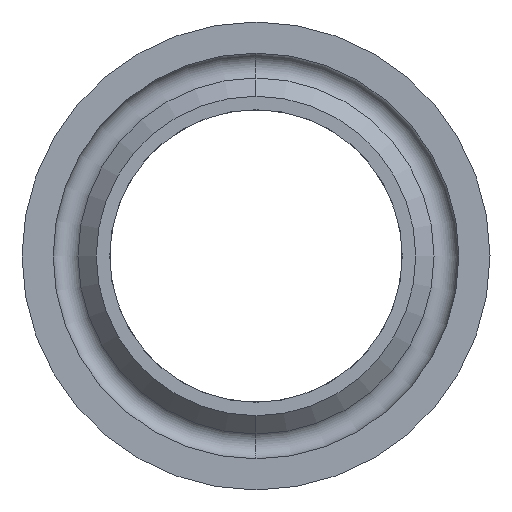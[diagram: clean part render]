
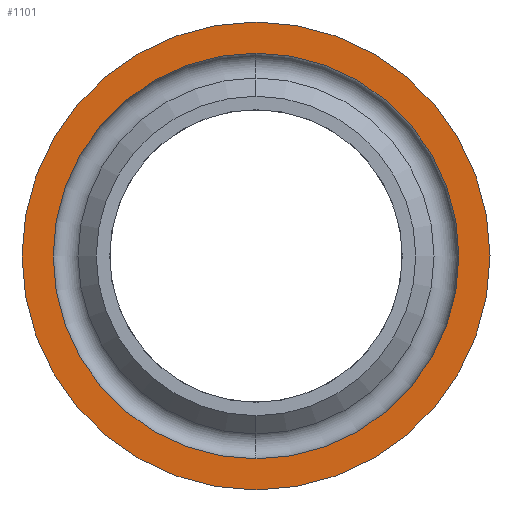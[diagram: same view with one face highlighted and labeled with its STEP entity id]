
A CAD part, front view. The second image highlights one B-rep face of the part: STEP entity #1101.
In plain terms, the highlighted planar face has unit normal (0, -1, 0).
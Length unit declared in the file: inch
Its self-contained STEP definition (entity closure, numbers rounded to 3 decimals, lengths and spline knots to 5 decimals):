
#86 = CIRCLE ( 'NONE', #96, 0.496 ) ;
#96 = AXIS2_PLACEMENT_3D ( 'NONE', #246, #1065, #355 ) ;
#121 = CARTESIAN_POINT ( 'NONE',  ( -0.496, 0., 0. ) ) ;
#140 = CIRCLE ( 'NONE', #939, 0.43 ) ;
#159 = CIRCLE ( 'NONE', #1169, 0.43 ) ;
#172 = FACE_BOUND ( 'NONE', #873, .T. ) ;
#185 = CARTESIAN_POINT ( 'NONE',  ( 0., 0., -0.496 ) ) ;
#246 = CARTESIAN_POINT ( 'NONE',  ( 0., 0., 0. ) ) ;
#247 = DIRECTION ( 'NONE',  ( 0., 1., 0. ) ) ;
#320 = DIRECTION ( 'NONE',  ( 0., -1., 0. ) ) ;
#355 = DIRECTION ( 'NONE',  ( 0., 0., -1. ) ) ;
#459 = FACE_OUTER_BOUND ( 'NONE', #1216, .T. ) ;
#511 = EDGE_CURVE ( 'NONE', #1041, #1317, #159, .T. ) ;
#539 = EDGE_CURVE ( 'NONE', #1317, #1041, #140, .T. ) ;
#567 = CARTESIAN_POINT ( 'NONE',  ( 0., 0., 0.43 ) ) ;
#590 = CARTESIAN_POINT ( 'NONE',  ( 0., 0., 0.496 ) ) ;
#603 = PLANE ( 'NONE',  #1097 ) ;
#620 = CIRCLE ( 'NONE', #1058, 0.496 ) ;
#712 = ORIENTED_EDGE ( 'NONE', *, *, #511, .F. ) ;
#714 = ORIENTED_EDGE ( 'NONE', *, *, #539, .F. ) ;
#715 = ORIENTED_EDGE ( 'NONE', *, *, #870, .T. ) ;
#721 = ORIENTED_EDGE ( 'NONE', *, *, #1476, .T. ) ;
#802 = VERTEX_POINT ( 'NONE', #185 ) ;
#812 = CARTESIAN_POINT ( 'NONE',  ( 0., 0., -0.43 ) ) ;
#870 = EDGE_CURVE ( 'NONE', #802, #1003, #620, .T. ) ;
#873 = EDGE_LOOP ( 'NONE', ( #712, #714 ) ) ;
#939 = AXIS2_PLACEMENT_3D ( 'NONE', #1251, #1182, #1178 ) ;
#1003 = VERTEX_POINT ( 'NONE', #590 ) ;
#1026 = CARTESIAN_POINT ( 'NONE',  ( 0., 0., 0. ) ) ;
#1041 = VERTEX_POINT ( 'NONE', #812 ) ;
#1058 = AXIS2_PLACEMENT_3D ( 'NONE', #1026, #320, #1137 ) ;
#1065 = DIRECTION ( 'NONE',  ( 0., -1., 0. ) ) ;
#1066 = DIRECTION ( 'NONE',  ( 0., 0., 1. ) ) ;
#1097 = AXIS2_PLACEMENT_3D ( 'NONE', #121, #247, #1066 ) ;
#1101 = ADVANCED_FACE ( 'NONE', ( #172, #459 ), #603, .F. ) ;
#1137 = DIRECTION ( 'NONE',  ( 0., 0., -1. ) ) ;
#1169 = AXIS2_PLACEMENT_3D ( 'NONE', #1475, #1412, #1406 ) ;
#1178 = DIRECTION ( 'NONE',  ( 0., 0., -1. ) ) ;
#1182 = DIRECTION ( 'NONE',  ( 0., -1., 0. ) ) ;
#1216 = EDGE_LOOP ( 'NONE', ( #715, #721 ) ) ;
#1251 = CARTESIAN_POINT ( 'NONE',  ( 0., 0., 0. ) ) ;
#1317 = VERTEX_POINT ( 'NONE', #567 ) ;
#1406 = DIRECTION ( 'NONE',  ( 0., 0., -1. ) ) ;
#1412 = DIRECTION ( 'NONE',  ( 0., -1., 0. ) ) ;
#1475 = CARTESIAN_POINT ( 'NONE',  ( 0., 0., 0. ) ) ;
#1476 = EDGE_CURVE ( 'NONE', #1003, #802, #86, .T. ) ;
